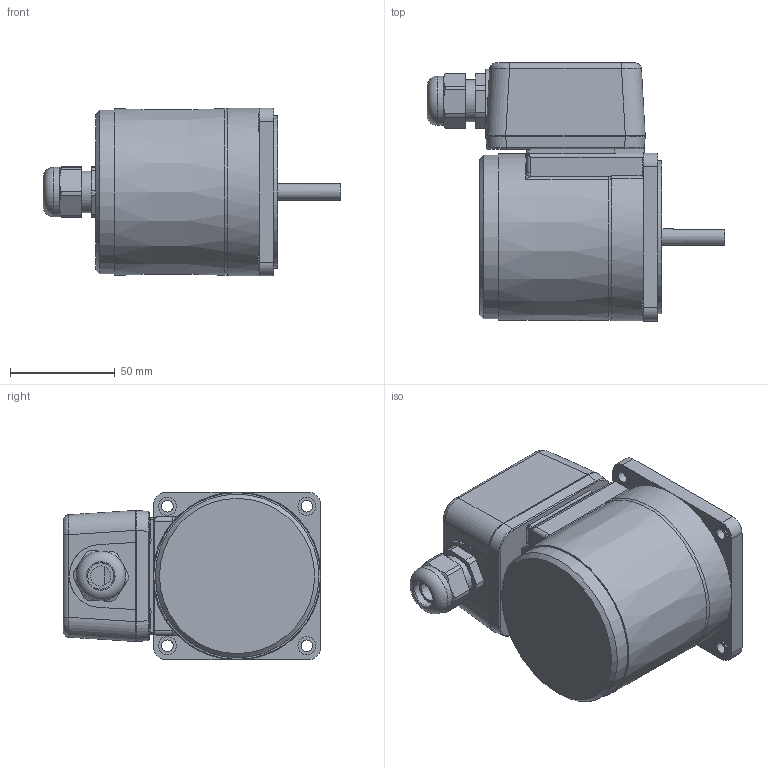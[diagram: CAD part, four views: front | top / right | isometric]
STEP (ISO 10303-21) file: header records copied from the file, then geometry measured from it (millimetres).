
FILE_DESCRIPTION((''),'2;1');
FILE_NAME('D:\STP파일\25W MOTOR\T BOX TYPE\S8I15K-T.stp','2013-05-20T16:46:30',('leebh'),(''),'Autodesk Inventor 2011','Autodesk Inventor 2011','');
FILE_SCHEMA(('AUTOMOTIVE_DESIGN { 1 0 10303 214 1 1 1 1 }'));
Length unit declared in the file: millimetre
Products named in the file (1): 부품3
Bounding box: 142 x 123 x 80 mm (x, y, z)
Volume: 631278.3 mm3; surface area: 59215.6 mm2
Topology: 1 solids, 9 shells, 374 faces, 921 edges, 585 vertices
Faces by surface type: plane 194, cylinder 109, bspline 49, torus 18, cone 4
Full cylindrical faces by diameter (mm): 2.55 x2, 5.5 x4, 5.6 x4, 6.3 x4, 8 x1, 8.5 x4, 12.5 x1, 15 x1, 20 x2, 21 x1, 23.6 x1, 34 x1, 73 x1, 78 x1
Entity records: 12959 total; most frequent: CARTESIAN_POINT 4248, ORIENTED_EDGE 1716, DIRECTION 1655, EDGE_CURVE 858, AXIS2_PLACEMENT_3D 594, VERTEX_POINT 572, VECTOR 467, LINE 467
